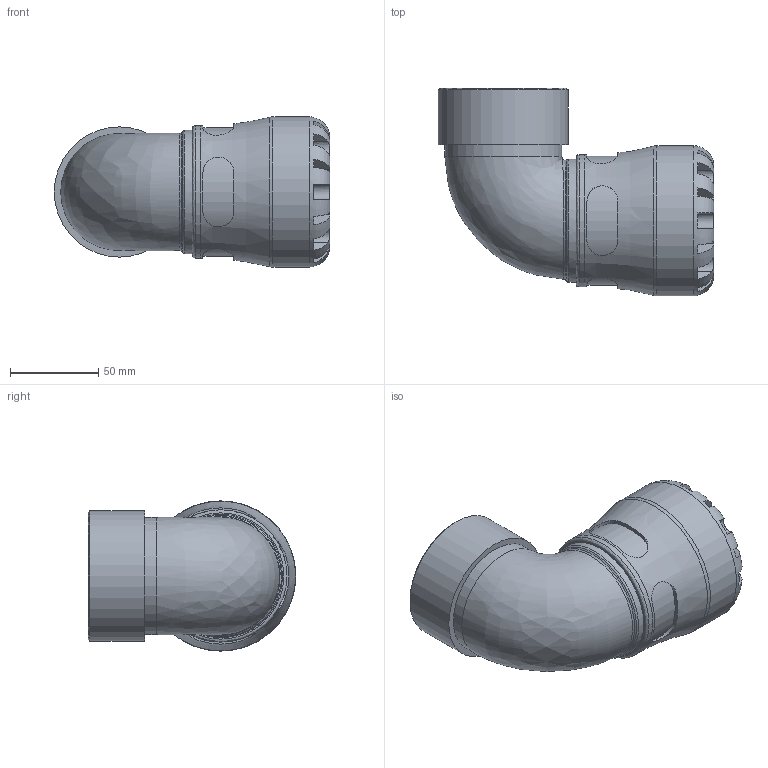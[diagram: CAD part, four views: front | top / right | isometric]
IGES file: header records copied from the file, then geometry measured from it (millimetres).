
Global section: file name: 101500050020_191500050020.ipt; native system: Autodesk Inventor 2015; preprocessor: unknown; author: KIM; date: 20170730.115229; units: millimetre
Bounding box: 155.83 x 117.5 x 85 mm (x, y, z)
Volume: 386515.8 mm3; surface area: 79276.5 mm2
Topology: 1 solids, 1 shells, 111 faces, 284 edges, 180 vertices
Faces by surface type: plane 62, revolution 26, cylinder 17, bspline 5, cone 1
Full cylindrical faces by diameter (mm): 66.288 x1, 69.7 x1, 73.653 x1, 74.8 x1, 85 x1
